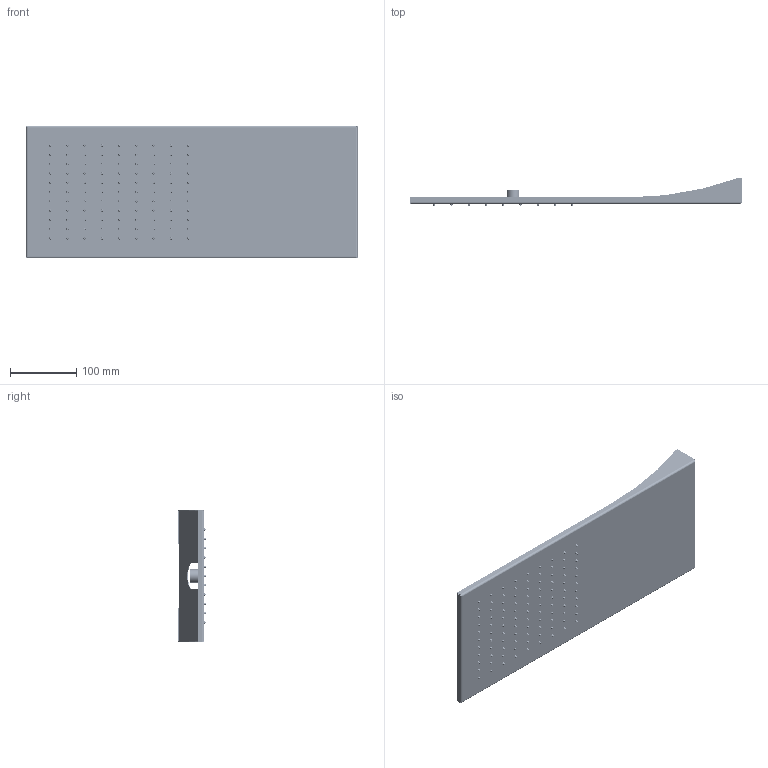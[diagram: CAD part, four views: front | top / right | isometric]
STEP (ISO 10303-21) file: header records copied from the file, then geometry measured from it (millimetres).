
FILE_DESCRIPTION((''),'2;1');
FILE_NAME('90635_SW0001','2021-06-01T11:16:28',('carloff'),(''),'CREO PARAMETRIC BY PTC INC, 2018100','CREO PARAMETRIC BY PTC INC, 2018100','');
FILE_SCHEMA(('CONFIG_CONTROL_DESIGN'));
Products named in the file (1): 90635_SW0001
Bounding box: 500.5 x 43.3 x 200 mm (x, y, z)
Volume: 381975.1 mm3; surface area: 525041.5 mm2
Topology: 3 solids, 4 shells, 4449 faces, 9136 edges, 5103 vertices
Faces by surface type: torus 2812, cylinder 793, plane 598, cone 229, bspline 8, sphere 8, extrusion 1
Entity records: 119672 total; most frequent: DIRECTION 25433, CARTESIAN_POINT 20454, ORIENTED_EDGE 18256, AXIS2_PLACEMENT_3D 11976, EDGE_CURVE 9128, CIRCLE 7536, VERTEX_POINT 5103, EDGE_LOOP 4881
